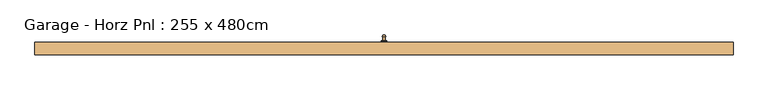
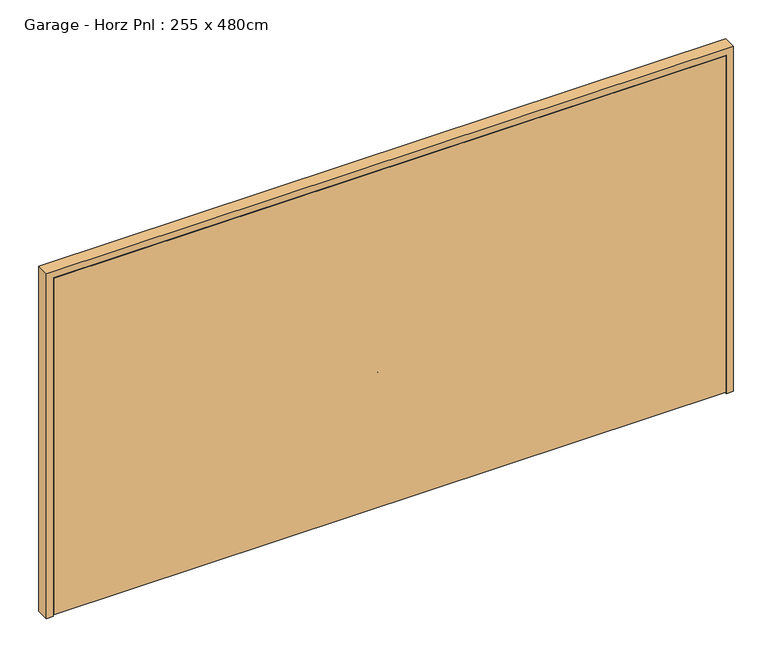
"""IFC4 building model written with IfcOpenShell, lengths in millimetres: door geometry, Garage - Horz Pnl : 255 x 480cm."""

from ifc_helpers import new_model, si_unit, point, frame, frame_2d, origin, place, context, project, spatial, polyline, circle_curve, ellipse_curve, trimmed, segment, composite_curve, outline, extrude, faceted_brep, source, transform, mapped, element, save
from ifc_brep_helpers import plane_surface, revolved_surface, advanced_brep


def garage_horz_pnl_255_x_480cm_d9c095b1(model_context):
    return source(origin(), model_context, "Body", "SolidModel", [
        extrude(outline(composite_curve([segment(trimmed(circle_curve(frame_2d((900.0, 1264.5)), 20.0), [point((900.0, 1244.5))], [point((900.0, 1284.5))], False, "CARTESIAN"), True, "CONTINUOUS"), segment(trimmed(circle_curve(frame_2d((900.0, 1264.5)), 20.0), [point((900.0, 1284.5))], [point((900.0, 1244.5))], False, "CARTESIAN"), True, "CONTINUOUS")], self_intersect=False)), frame((0.0, 80.0, 0.0), z_axis=(0.0, 1.0, 0.0), x_axis=(0.0, 0.0, 1.0)), (0.0, 0.0, 1.0), 3.0),
        advanced_brep(
        [(1264.5, 113.0, 843.6641808), (1266.3492572, 113.0, 845.2113613), (1275.4509795, 113.0, 899.2132014), (1266.0, 113.0, 908.6641808), (1264.5, 113.0, 908.6641808), (1263.0, 113.0, 908.6641808), (1253.5490205, 113.0, 899.2132014), (1262.6507428, 113.0, 845.2113613)],
        [
            (0, 1, circle_curve(frame((1264.1345333, 113.0, 845.979749), z_axis=(0.0, -1.0000000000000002, 0.0), x_axis=(0.0, 0.0, -1.0)), 2.3442316)),
            (1, 2, circle_curve(frame((1110.6997375, 113.0, 899.2132014), z_axis=(0.0, -1.0000000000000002, 0.0), x_axis=(0.0, 0.0, -1.0)), 164.7512419)),
            (2, 3, circle_curve(frame((1266.0, 113.0, 899.2132014), z_axis=(0.0, -1.0000000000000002, 0.0), x_axis=(0.0, 0.0, -1.0)), 9.4509795)),
            (3, 4),
            (4, 0),
            (4, 5),
            (5, 6, circle_curve(frame((1263.0, 113.0, 899.2132014), z_axis=(0.0, -1.0000000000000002, 0.0), x_axis=(0.0, 0.0, -1.0)), 9.4509795)),
            (6, 7, circle_curve(frame((1418.3002625, 113.0, 899.2132014), z_axis=(0.0, -1.0000000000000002, 0.0), x_axis=(0.0, 0.0, -1.0)), 164.7512419)),
            (7, 0, circle_curve(frame((1264.8654667, 113.0, 845.979749), z_axis=(0.0, -1.0000000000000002, 0.0), x_axis=(0.0, 0.0, -1.0)), 2.3442316)),
            (7, 1, circle_curve(frame((1264.5, 113.0, 845.2113613), z_axis=(0.0, 0.0, -1.0), x_axis=(1.0000000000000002, 0.0, 0.0)), 1.8492572)),
            (6, 2, circle_curve(frame((1264.5, 113.0, 899.2132014), z_axis=(0.0, 0.0, -1.0), x_axis=(1.0000000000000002, 0.0, 0.0)), 10.9509795)),
            (5, 3, circle_curve(frame((1264.5, 113.0, 908.6641808), z_axis=(0.0, 0.0, -1.0), x_axis=(1.0000000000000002, 0.0, 0.0)), 1.5)),
        ],
        [
            plane_surface(frame((1264.5, 113.0, 853.0919868), z_axis=(0.0, -1.0, 0.0), x_axis=(1.0, 0.0, 0.0))),
            plane_surface(frame((1264.5, 113.0, 853.0919868), z_axis=(0.0, -1.0, 0.0), x_axis=(-1.0, 0.0, 0.0))),
            revolved_surface(trimmed(ellipse_curve(frame((1264.1345333, 113.0, 845.979749), z_axis=(0.0, -1.0000000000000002, 0.0), x_axis=(0.0, 0.0, -1.0)), 2.3442316, 2.3442316), [point((1264.5, 113.0, 843.6641808))], [point((1266.3492572, 113.0, 845.2113613))], True, "CARTESIAN"), (1264.5, 113.0, 853.0919868), (0.0, 0.0, 1.0)),
            revolved_surface(trimmed(ellipse_curve(frame((1110.6997375, 113.0, 899.2132014), z_axis=(0.0, -1.0000000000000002, 0.0), x_axis=(0.0, 0.0, -1.0)), 164.7512419, 164.7512419), [point((1266.3492572, 113.0, 845.2113613))], [point((1275.4509795, 113.0, 899.2132014))], True, "CARTESIAN"), (1264.5, 113.0, 853.0919868), (0.0, 0.0, 1.0)),
            revolved_surface(trimmed(ellipse_curve(frame((1266.0, 113.0, 899.2132014), z_axis=(0.0, -1.0000000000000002, 0.0), x_axis=(0.0, 0.0, -1.0)), 9.4509795, 9.4509795), [point((1275.4509795, 113.0, 899.2132014))], [point((1266.0, 113.0, 908.6641808))], True, "CARTESIAN"), (1264.5, 113.0, 853.0919868), (0.0, 0.0, 1.0)),
            plane_surface(frame((1264.5, 113.0, 908.6641808), z_axis=(0.0, 0.0, 1.0), x_axis=(1.0, 0.0, 0.0))),
        ],
        [
            (0, [[1, 2, 3, 4, 5]]),
            (1, [[6, 7, 8, 9, -5]]),
            (2, [[10, -1, -9]]),
            (3, [[11, -2, -10, -8]]),
            (4, [[12, -3, -11, -7]]),
            (5, [[-4, -12, -6]]),
        ],
    ),
        extrude(outline(composite_curve([segment(trimmed(circle_curve(frame_2d((900.0, 1264.5)), 7.0), [point((900.0, 1271.5))], [point((900.0, 1257.5))], False, "CARTESIAN"), True, "CONTINUOUS"), segment(trimmed(circle_curve(frame_2d((900.0, 1264.5)), 7.0), [point((900.0, 1257.5))], [point((900.0, 1271.5))], False, "CARTESIAN"), True, "CONTINUOUS")], self_intersect=False)), frame((0.0, 83.0, 0.0), z_axis=(0.0, 1.0, 0.0), x_axis=(0.0, 0.0, 1.0)), (0.0, 0.0, 1.0), 30.0),
        faceted_brep([(3594.0, 75.0, 0.0), (3664.5, 75.0, 0.0), (3664.5, -14.0, 0.0), (3616.0, -14.0, 0.0), (3616.0, 33.0, 0.0), (3594.0, 33.0, 0.0), (3594.0, 75.0, 2479.5), (-1065.0, 75.0, 2479.5), (-1065.0, 75.0, 0.0), (-1135.5, 75.0, 0.0), (-1135.5, 75.0, 2550.0), (3664.5, 75.0, 2550.0), (3664.5, -14.0, 2550.0), (-1135.5, -14.0, 2550.0), (-1135.5, -14.0, 0.0), (-1087.0, -14.0, 0.0), (-1087.0, -14.0, 2501.5), (3616.0, -14.0, 2501.5), (3616.0, 33.0, 2501.5), (-1087.0, 33.0, 2501.5), (-1087.0, 33.0, 0.0), (-1065.0, 33.0, 0.0), (-1065.0, 33.0, 2479.5), (3594.0, 33.0, 2479.5)], [[[0, 1, 2, 3, 4, 5]], [[1, 0, 6, 7, 8, 9, 10, 11]], [[2, 1, 11, 12]], [[3, 2, 12, 13, 14, 15, 16, 17]], [[4, 3, 17, 18]], [[5, 4, 18, 19, 20, 21, 22, 23]], [[0, 5, 23, 6]], [[7, 22, 21, 8]], [[8, 21, 20, 15, 14, 9]], [[13, 10, 9, 14]], [[19, 16, 15, 20]], [[12, 11, 10, 13]], [[18, 17, 16, 19]], [[6, 23, 22, 7]]]),
        extrude(outline(polyline([(3613.0, -14.0), (-1084.0, -14.0), (-1084.0, 30.0), (3613.0, 30.0), (3613.0, -14.0)])), frame((0.0, 0.0, 10.0), z_axis=(0.0, 0.0, 1.0), x_axis=(1.0, 0.0, 0.0)), (0.0, 0.0, 1.0), 2488.5),
    ])


if __name__ == "__main__":
    model = new_model("IFC4")
    model_context = context("Model", 3, world=origin())
    ifc_project = project(units=[si_unit("LENGTHUNIT", "METRE", prefix="MILLI")], contexts=[model_context])
    site = spatial("IfcSite", under=ifc_project)
    building = spatial("IfcBuilding", under=site)
    placement = place(None, origin())
    garage_horz_pnl_255_x_480cm_shape = garage_horz_pnl_255_x_480cm_d9c095b1(model_context)
    element("IfcDoor", 1, ObjectType="Garage - Horz Pnl : 255 x 480cm", at=placement, inside=building, context=model_context, shape_type="MappedRepresentation", body=[
        mapped(garage_horz_pnl_255_x_480cm_shape, transform((0.0, 0.0, 0.0), x_axis=(1.0, 0.0, 0.0), y_axis=(0.0, 1.0, 0.0), z_axis=(0.0, 0.0, 1.0))),
    ])
    save(model, "model.ifc")
